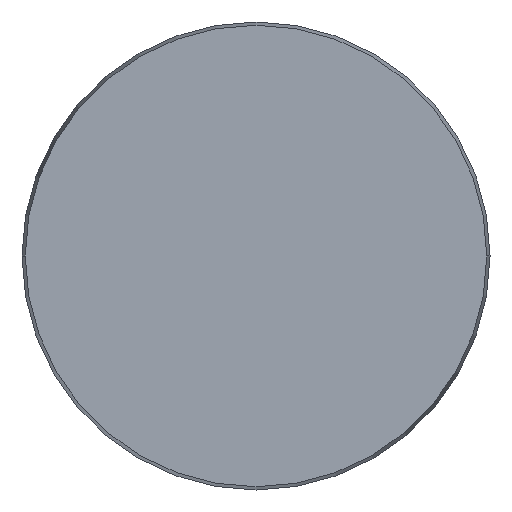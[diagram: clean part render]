
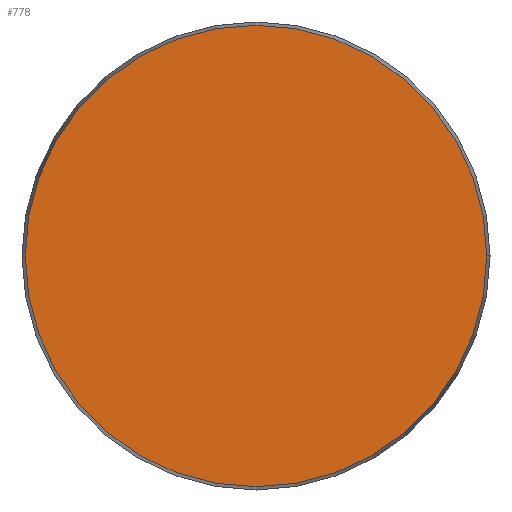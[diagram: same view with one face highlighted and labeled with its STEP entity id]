
A CAD part, front view. The second image highlights one B-rep face of the part: STEP entity #778.
In plain terms, the highlighted planar face has unit normal (0, -1, 0).
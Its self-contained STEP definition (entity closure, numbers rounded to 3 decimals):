
#33 = AXIS2_PLACEMENT_3D ( 'NONE', #570, #489, #736 ) ;
#59 = CIRCLE ( 'NONE', #108, 24.65 ) ;
#84 = EDGE_CURVE ( 'NONE', #374, #196, #111, .T. ) ;
#99 = EDGE_CURVE ( 'NONE', #196, #374, #59, .T. ) ;
#108 = AXIS2_PLACEMENT_3D ( 'NONE', #212, #469, #215 ) ;
#111 = CIRCLE ( 'NONE', #114, 24.65 ) ;
#114 = AXIS2_PLACEMENT_3D ( 'NONE', #323, #420, #758 ) ;
#196 = VERTEX_POINT ( 'NONE', #398 ) ;
#212 = CARTESIAN_POINT ( 'NONE',  ( 0., 0., 0. ) ) ;
#215 = DIRECTION ( 'NONE',  ( -1., 0., 0. ) ) ;
#221 = FACE_OUTER_BOUND ( 'NONE', #458, .T. ) ;
#305 = ORIENTED_EDGE ( 'NONE', *, *, #99, .F. ) ;
#323 = CARTESIAN_POINT ( 'NONE',  ( 0., 0., 0. ) ) ;
#374 = VERTEX_POINT ( 'NONE', #766 ) ;
#398 = CARTESIAN_POINT ( 'NONE',  ( -24.65, 0., 0. ) ) ;
#420 = DIRECTION ( 'NONE',  ( 0., 1., 0. ) ) ;
#458 = EDGE_LOOP ( 'NONE', ( #305, #635 ) ) ;
#469 = DIRECTION ( 'NONE',  ( 0., 1., 0. ) ) ;
#489 = DIRECTION ( 'NONE',  ( 0., 1., 0. ) ) ;
#570 = CARTESIAN_POINT ( 'NONE',  ( 24.65, 0., 0. ) ) ;
#635 = ORIENTED_EDGE ( 'NONE', *, *, #84, .F. ) ;
#657 = PLANE ( 'NONE',  #33 ) ;
#736 = DIRECTION ( 'NONE',  ( 0., 0., 1. ) ) ;
#758 = DIRECTION ( 'NONE',  ( -1., 0., 0. ) ) ;
#766 = CARTESIAN_POINT ( 'NONE',  ( 24.65, 0., 0. ) ) ;
#778 = ADVANCED_FACE ( '1', ( #221 ), #657, .F. ) ;
